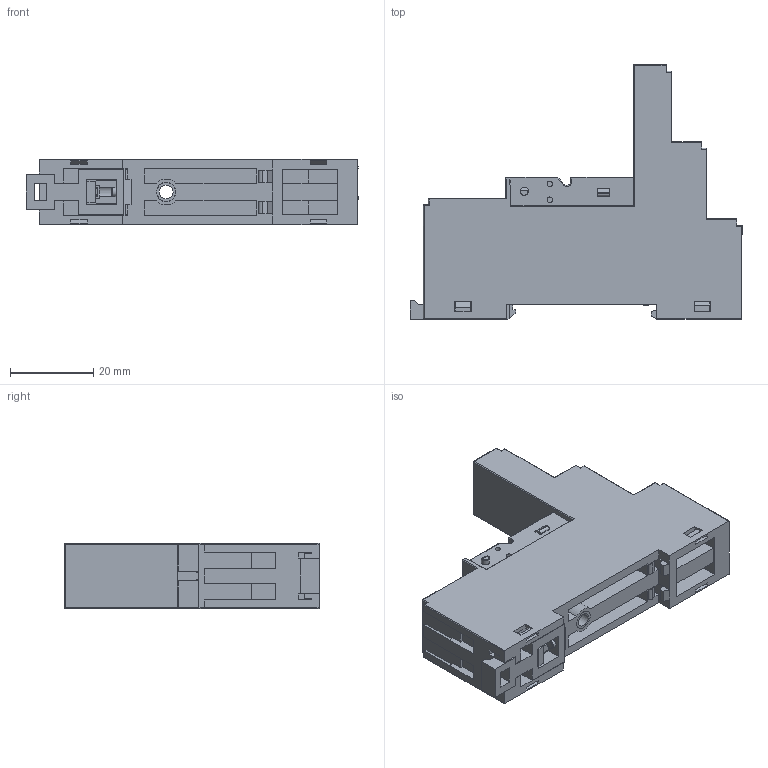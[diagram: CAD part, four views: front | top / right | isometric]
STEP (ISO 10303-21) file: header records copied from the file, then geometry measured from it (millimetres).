
FILE_DESCRIPTION (( 'STEP AP203' ), '1' );
FILE_NAME ('SRC08-E 俋倛.STEP', '2023-01-29T03:51:01', ( '' ), ( '' ), 'SwSTEP 2.0', 'SolidWorks 2018', '' );
FILE_SCHEMA (( 'CONFIG_CONTROL_DESIGN' ));
Length unit declared in the file: millimetre
Products named in the file (1): SRC08-E 俋倛
Bounding box: 79.6 x 61.1 x 15.6 mm (x, y, z)
Volume: 36187.5 mm3; surface area: 14654.1 mm2
Topology: 1 solids, 8 shells, 991 faces, 2642 edges, 1680 vertices
Faces by surface type: plane 652, cylinder 181, torus 98, cone 46, sphere 14
Entity records: 31483 total; most frequent: CARTESIAN_POINT 6951, ORIENTED_EDGE 5224, DIRECTION 4905, EDGE_CURVE 2612, VECTOR 1815, LINE 1815, VERTEX_POINT 1680, AXIS2_PLACEMENT_3D 1545
